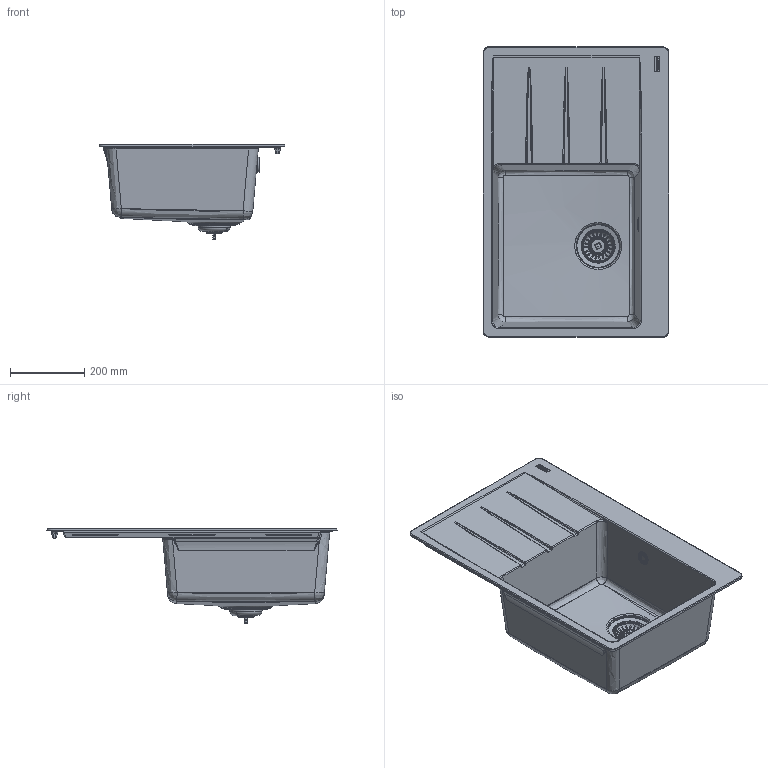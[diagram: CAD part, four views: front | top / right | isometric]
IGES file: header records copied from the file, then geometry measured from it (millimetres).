
Global section: file name: F:\_CONVERSIONE_CAD_2024_2025\_2024\03_3D kits new\Sinks\CENTRO\3D001_Sinks_Centro_CNG-611-62-LHD\3D001_Sinks_Centro_CNG-611-62-LHD.igs; native system: Rhinoceros ( Feb 13 2024 ); preprocessor: Trout Lake IGES 012 Feb 13 2024; date: 240313.160954; units: millimetre
Bounding box: 500 x 780 x 256.38 mm (x, y, z)
Surface area: 1422661 mm2 (no closed solid volume)
Topology: 0 solids, 0 shells, 1902 faces, 11741 edges, 11657 vertices
Faces by surface type: bspline 1902
